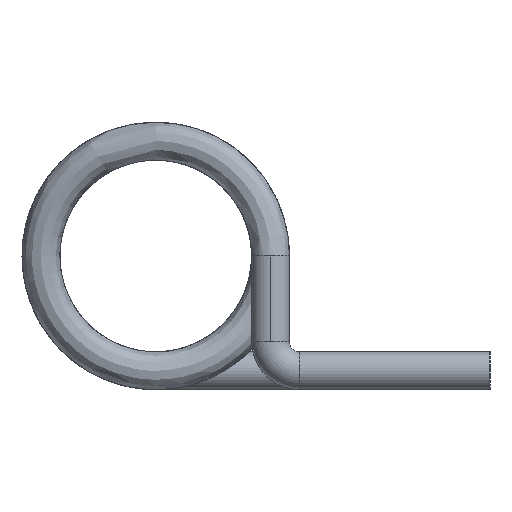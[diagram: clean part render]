
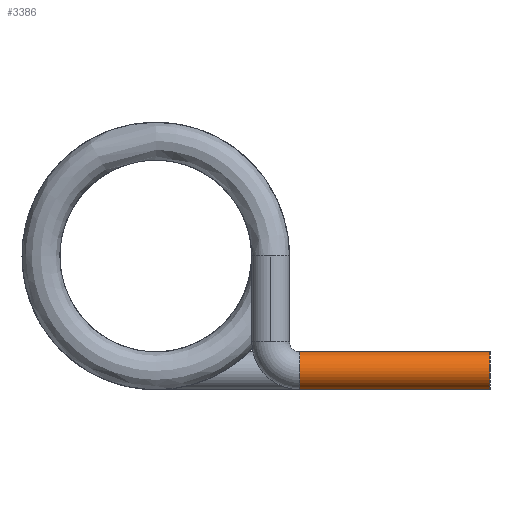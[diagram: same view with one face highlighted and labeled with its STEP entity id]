
A CAD part, left-side view. The second image highlights one B-rep face of the part: STEP entity #3386.
In plain terms, the highlighted cylindrical face has radius 0.645 mm (diameter 1.29 mm), a partial arc.
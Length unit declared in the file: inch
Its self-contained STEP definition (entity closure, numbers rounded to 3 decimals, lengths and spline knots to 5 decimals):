
#22 = CYLINDRICAL_SURFACE ( 'NONE', #2871, 0.0254 ) ;
#249 = VERTEX_POINT ( 'NONE', #3413 ) ;
#332 = EDGE_CURVE ( 'NONE', #1494, #1610, #907, .T. ) ;
#351 = DIRECTION ( 'NONE',  ( 0., -1., 0. ) ) ;
#373 = ORIENTED_EDGE ( 'NONE', *, *, #1183, .T. ) ;
#862 = CARTESIAN_POINT ( 'NONE',  ( -0.75, -0.01397, -0.18 ) ) ;
#907 = LINE ( 'NONE', #3050, #3794 ) ;
#1102 = CARTESIAN_POINT ( 'NONE',  ( -0.75, -0.01397, -0.1292 ) ) ;
#1183 = EDGE_CURVE ( 'NONE', #1838, #249, #2988, .T. ) ;
#1191 = CARTESIAN_POINT ( 'NONE',  ( -0.75, -0.01397, -0.1546 ) ) ;
#1315 = ORIENTED_EDGE ( 'NONE', *, *, #2032, .F. ) ;
#1372 = EDGE_CURVE ( 'NONE', #1494, #1838, #4862, .T. ) ;
#1374 = EDGE_LOOP ( 'NONE', ( #1780, #3736, #373, #1315 ) ) ;
#1494 = VERTEX_POINT ( 'NONE', #1102 ) ;
#1592 = CARTESIAN_POINT ( 'NONE',  ( -0.75, -0.01397, -0.1546 ) ) ;
#1610 = VERTEX_POINT ( 'NONE', #4567 ) ;
#1624 = DIRECTION ( 'NONE',  ( 0., -1., 0. ) ) ;
#1780 = ORIENTED_EDGE ( 'NONE', *, *, #332, .F. ) ;
#1838 = VERTEX_POINT ( 'NONE', #862 ) ;
#1967 = VECTOR ( 'NONE', #351, 39.37008 ) ;
#2032 = EDGE_CURVE ( 'NONE', #1610, #249, #4803, .T. ) ;
#2341 = FACE_OUTER_BOUND ( 'NONE', #1374, .T. ) ;
#2356 = DIRECTION ( 'NONE',  ( 0., -1., 0. ) ) ;
#2617 = AXIS2_PLACEMENT_3D ( 'NONE', #3098, #2356, #4172 ) ;
#2619 = CARTESIAN_POINT ( 'NONE',  ( -0.75, -0.01397, -0.18 ) ) ;
#2638 = DIRECTION ( 'NONE',  ( 0., -1., 0. ) ) ;
#2871 = AXIS2_PLACEMENT_3D ( 'NONE', #1592, #1624, #3872 ) ;
#2988 = LINE ( 'NONE', #2619, #1967 ) ;
#3050 = CARTESIAN_POINT ( 'NONE',  ( -0.75, -0.01397, -0.1292 ) ) ;
#3098 = CARTESIAN_POINT ( 'NONE',  ( -0.75, -0.27, -0.1546 ) ) ;
#3386 = ADVANCED_FACE ( 'NONE', ( #2341 ), #22, .T. ) ;
#3413 = CARTESIAN_POINT ( 'NONE',  ( -0.75, -0.27, -0.18 ) ) ;
#3457 = DIRECTION ( 'NONE',  ( 0., -1., 0. ) ) ;
#3736 = ORIENTED_EDGE ( 'NONE', *, *, #1372, .T. ) ;
#3794 = VECTOR ( 'NONE', #2638, 39.37008 ) ;
#3872 = DIRECTION ( 'NONE',  ( 0., 0., -1. ) ) ;
#4124 = AXIS2_PLACEMENT_3D ( 'NONE', #1191, #3457, #4583 ) ;
#4172 = DIRECTION ( 'NONE',  ( 0., 0., -1. ) ) ;
#4567 = CARTESIAN_POINT ( 'NONE',  ( -0.75, -0.27, -0.1292 ) ) ;
#4583 = DIRECTION ( 'NONE',  ( 0., 0., -1. ) ) ;
#4803 = CIRCLE ( 'NONE', #2617, 0.0254 ) ;
#4862 = CIRCLE ( 'NONE', #4124, 0.0254 ) ;
